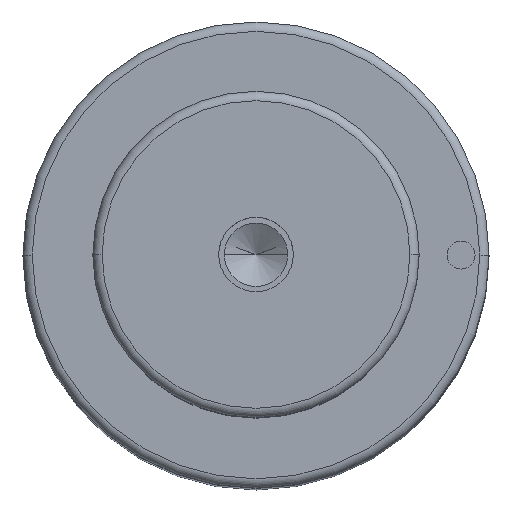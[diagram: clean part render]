
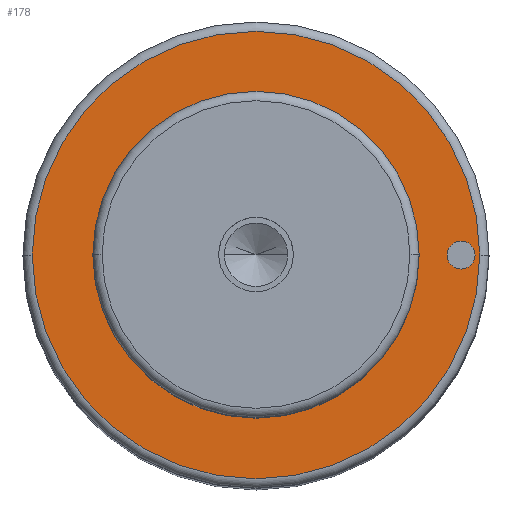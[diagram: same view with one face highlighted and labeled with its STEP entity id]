
A CAD part, top view. The second image highlights one B-rep face of the part: STEP entity #178.
In plain terms, the highlighted planar face has unit normal (0, 0, 1).
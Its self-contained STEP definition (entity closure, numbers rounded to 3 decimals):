
#105=PLANE('',#866);
#115=FACE_BOUND('',#283,.T.);
#116=FACE_BOUND('',#284,.T.);
#117=FACE_BOUND('',#285,.T.);
#178=ADVANCED_FACE('',(#115,#116,#117),#105,.T.);
#283=EDGE_LOOP('',(#473,#474));
#284=EDGE_LOOP('',(#475,#476));
#285=EDGE_LOOP('',(#477,#478));
#333=CIRCLE('',#834,17.5);
#334=CIRCLE('',#836,17.5);
#338=CIRCLE('',#841,24.);
#339=CIRCLE('',#843,24.);
#351=CIRCLE('',#864,1.5);
#352=CIRCLE('',#865,1.5);
#473=ORIENTED_EDGE('',*,*,#666,.F.);
#474=ORIENTED_EDGE('',*,*,#667,.F.);
#475=ORIENTED_EDGE('',*,*,#685,.F.);
#476=ORIENTED_EDGE('',*,*,#686,.F.);
#477=ORIENTED_EDGE('',*,*,#662,.T.);
#478=ORIENTED_EDGE('',*,*,#660,.T.);
#590=VERTEX_POINT('',#1233);
#591=VERTEX_POINT('',#1235);
#592=VERTEX_POINT('',#1241);
#595=VERTEX_POINT('',#1246);
#604=VERTEX_POINT('',#1285);
#605=VERTEX_POINT('',#1286);
#660=EDGE_CURVE('',#591,#590,#333,.T.);
#662=EDGE_CURVE('',#590,#591,#334,.T.);
#666=EDGE_CURVE('',#595,#592,#338,.T.);
#667=EDGE_CURVE('',#592,#595,#339,.T.);
#685=EDGE_CURVE('',#604,#605,#351,.T.);
#686=EDGE_CURVE('',#605,#604,#352,.T.);
#834=AXIS2_PLACEMENT_3D('',#1234,#985,#986);
#836=AXIS2_PLACEMENT_3D('',#1238,#990,#991);
#841=AXIS2_PLACEMENT_3D('',#1247,#1000,#1001);
#843=AXIS2_PLACEMENT_3D('',#1249,#1004,#1005);
#864=AXIS2_PLACEMENT_3D('',#1284,#1052,#1053);
#865=AXIS2_PLACEMENT_3D('',#1287,#1054,#1055);
#866=AXIS2_PLACEMENT_3D('',#1288,#1056,#1057);
#985=DIRECTION('',(0.,0.,-1.));
#986=DIRECTION('',(0.,1.,0.));
#990=DIRECTION('',(0.,0.,-1.));
#991=DIRECTION('',(0.,-1.,0.));
#1000=DIRECTION('',(0.,0.,-1.));
#1001=DIRECTION('',(0.,1.,0.));
#1004=DIRECTION('',(0.,0.,-1.));
#1005=DIRECTION('',(0.,-1.,0.));
#1052=DIRECTION('',(0.,0.,1.));
#1053=DIRECTION('',(0.,1.,0.));
#1054=DIRECTION('',(0.,0.,1.));
#1055=DIRECTION('',(0.,-1.,0.));
#1056=DIRECTION('',(0.,0.,1.));
#1057=DIRECTION('',(0.,-1.,0.));
#1233=CARTESIAN_POINT('',(-17.5,0.,116.));
#1234=CARTESIAN_POINT('',(0.,0.,116.));
#1235=CARTESIAN_POINT('',(17.5,0.,116.));
#1238=CARTESIAN_POINT('',(0.,0.,116.));
#1241=CARTESIAN_POINT('',(-24.,0.,116.));
#1246=CARTESIAN_POINT('',(24.,0.,116.));
#1247=CARTESIAN_POINT('',(0.,0.,116.));
#1249=CARTESIAN_POINT('',(0.,0.,116.));
#1284=CARTESIAN_POINT('',(22.,0.,116.));
#1285=CARTESIAN_POINT('',(20.5,0.,116.));
#1286=CARTESIAN_POINT('',(23.5,0.,116.));
#1287=CARTESIAN_POINT('',(22.,0.,116.));
#1288=CARTESIAN_POINT('',(0.,0.,116.));
